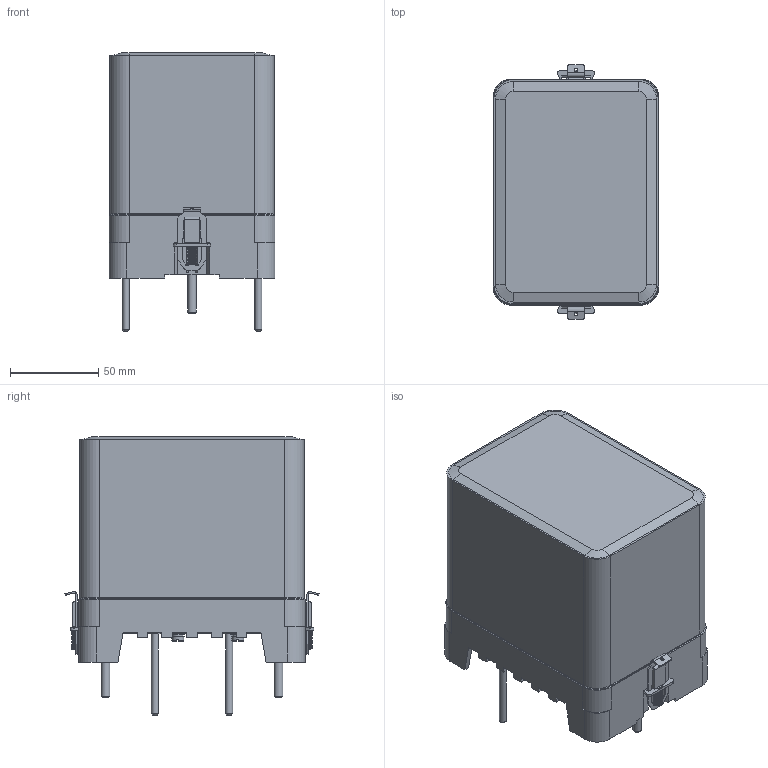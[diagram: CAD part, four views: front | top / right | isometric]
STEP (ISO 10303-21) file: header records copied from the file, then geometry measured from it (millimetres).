
FILE_DESCRIPTION(('STEP AP214'), '1');
FILE_NAME('ÐÂ114, ÐÂ124, ÐÂ134, ÐÂ144 ç.ï.øï', '', ('UNSPECIFIED'), ('UNSPECIFIED'), 'ASCON STEP Converter 1.3', 'ASCON Math Kernel', '');
FILE_SCHEMA(('AUTOMOTIVE_DESIGN { 1 0 10303 214 3 1 1}'));
Length unit declared in the file: millimetre
Bounding box: 94 x 144 x 157.5 mm (x, y, z)
Volume: 223722.5 mm3; surface area: 155724.4 mm2
Topology: 2 solids, 2 shells, 964 faces, 2457 edges, 1512 vertices
Faces by surface type: plane 551, cylinder 275, torus 76, sphere 29, cone 27, bspline 6
Full cylindrical faces by diameter (mm): 2 x2, 3.3 x7, 3.5 x2, 4 x12, 4.3 x2, 4.5 x2, 5 x2, 5.5 x20, 8 x2, 11 x2
Entity records: 44842 total; most frequent: CARTESIAN_POINT 13992, DIRECTION 4856, ORIENTED_EDGE 4672, EDGE_CURVE 2336, AXIS2_PLACEMENT_3D 1648, LINE 1560, VECTOR 1560, VERTEX_POINT 1506
